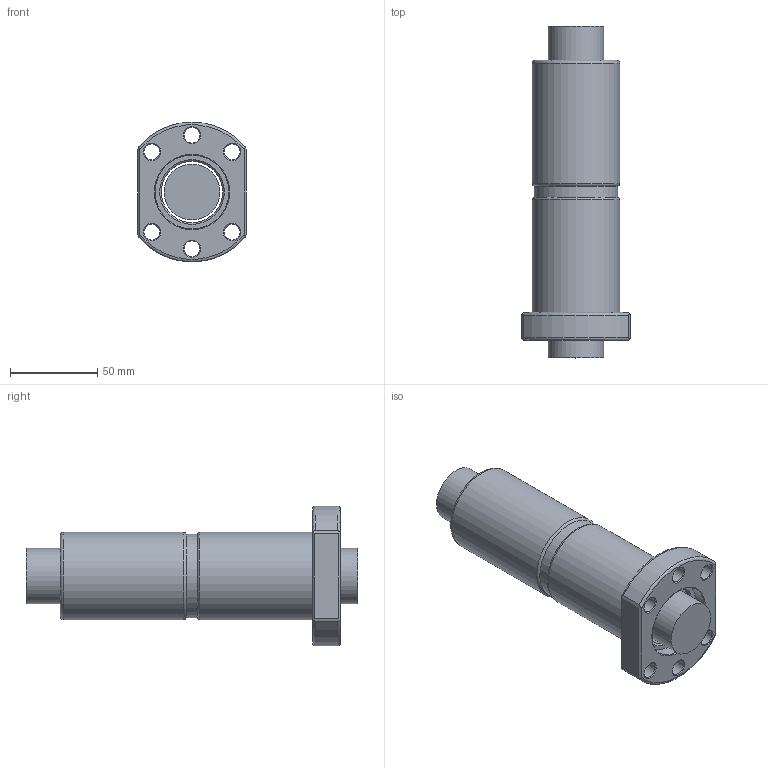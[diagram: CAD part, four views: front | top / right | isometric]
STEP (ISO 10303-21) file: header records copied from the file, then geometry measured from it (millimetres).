
FILE_DESCRIPTION(/* description */ (''),/* implementation_level */ '2;1');
FILE_NAME(/* name */ '3210.prt.step',/* time_stamp */ '2008-12-05T09:27:55+08:00',/* author */ (''),/* organization */ (''),/* preprocessor_version */ 'ST-DEVELOPER v11',/* originating_system */ 'SIEMENS UGS NX 6.0',/* authorisation */ '');
FILE_SCHEMA (('AUTOMOTIVE_DESIGN { 1 0 10303 214 1 1 1 1 }'));
Length unit declared in the file: millimetre
Products named in the file (1): 3210
Bounding box: 62 x 190 x 80 mm (x, y, z)
Volume: 336058.3 mm3; surface area: 76578.8 mm2
Topology: 4 solids, 4 shells, 69 faces, 152 edges, 96 vertices
Faces by surface type: plane 23, cylinder 19, cone 16, torus 11
Full cylindrical faces by diameter (mm): 9 x6, 31.95 x1, 35 x2, 36 x1, 40 x2, 42.3 x2, 48 x1, 50 x2
Entity records: 1925 total; most frequent: CARTESIAN_POINT 504, DIRECTION 294, ORIENTED_EDGE 210, AXIS2_PLACEMENT_3D 135, EDGE_LOOP 132, FACE_BOUND 114, EDGE_CURVE 105, VERTEX_POINT 89
